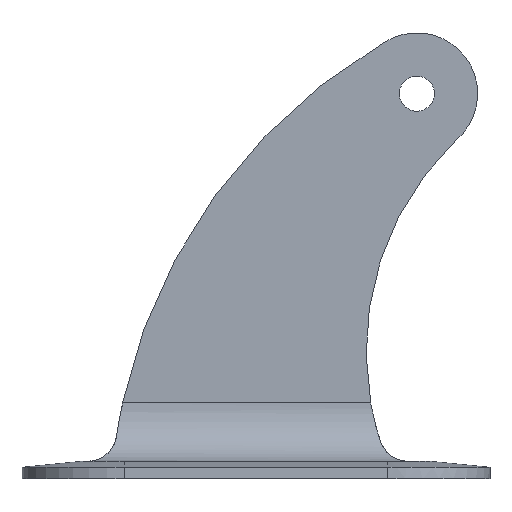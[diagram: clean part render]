
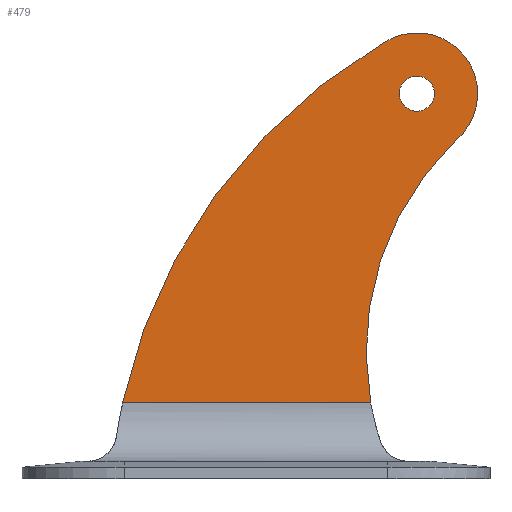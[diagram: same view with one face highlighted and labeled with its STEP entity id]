
A CAD part, left-side view. The second image highlights one B-rep face of the part: STEP entity #479.
In plain terms, the highlighted planar face has unit normal (-1, 0, 0).
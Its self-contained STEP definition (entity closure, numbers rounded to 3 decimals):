
#25=FACE_BOUND('',#110,.T.);
#37=PLANE('',#534);
#39=CIRCLE('',#500,10.);
#51=CIRCLE('',#533,18.867);
#52=CIRCLE('',#535,2.079);
#53=CIRCLE('',#536,0.6);
#79=FACE_OUTER_BOUND('',#109,.T.);
#109=EDGE_LOOP('',(#429,#430,#431,#432));
#110=EDGE_LOOP('',(#433));
#125=LINE('',#801,#160);
#160=VECTOR('',#584,10.);
#205=VERTEX_POINT('',#704);
#206=VERTEX_POINT('',#706);
#222=VERTEX_POINT('',#794);
#239=VERTEX_POINT('',#944);
#240=VERTEX_POINT('',#949);
#248=EDGE_CURVE('',#206,#205,#39,.F.);
#270=EDGE_CURVE('',#206,#222,#125,.T.);
#303=EDGE_CURVE('',#239,#222,#51,.F.);
#305=EDGE_CURVE('',#205,#239,#52,.F.);
#306=EDGE_CURVE('',#240,#240,#53,.F.);
#429=ORIENTED_EDGE('',*,*,#270,.F.);
#430=ORIENTED_EDGE('',*,*,#248,.T.);
#431=ORIENTED_EDGE('',*,*,#305,.T.);
#432=ORIENTED_EDGE('',*,*,#303,.T.);
#433=ORIENTED_EDGE('',*,*,#306,.T.);
#479=ADVANCED_FACE('',(#79,#25),#37,.T.);
#500=AXIS2_PLACEMENT_3D('',#707,#553,#554);
#533=AXIS2_PLACEMENT_3D('',#945,#649,#650);
#534=AXIS2_PLACEMENT_3D('',#947,#652,#653);
#535=AXIS2_PLACEMENT_3D('',#948,#654,#655);
#536=AXIS2_PLACEMENT_3D('',#950,#656,#657);
#553=DIRECTION('center_axis',(-1.,0.,0.));
#554=DIRECTION('ref_axis',(0.,0.994,0.111));
#584=DIRECTION('',(0.,1.,0.));
#649=DIRECTION('center_axis',(1.,0.,0.));
#650=DIRECTION('ref_axis',(0.,0.92,0.392));
#652=DIRECTION('center_axis',(-1.,0.,0.));
#653=DIRECTION('ref_axis',(0.,-1.,0.));
#654=DIRECTION('center_axis',(1.,0.,0.));
#655=DIRECTION('ref_axis',(0.,1.,0.));
#656=DIRECTION('center_axis',(-1.,0.,0.));
#657=DIRECTION('ref_axis',(0.,1.,0.));
#704=CARTESIAN_POINT('',(-0.8,-5.832,11.378));
#706=CARTESIAN_POINT('',(-0.8,-2.924,2.4));
#707=CARTESIAN_POINT('Origin',(-0.8,-12.765,4.172));
#794=CARTESIAN_POINT('',(-0.8,5.559,2.4));
#801=CARTESIAN_POINT('',(-0.8,1.75,2.4));
#944=CARTESIAN_POINT('',(-0.8,-3.354,14.709));
#945=CARTESIAN_POINT('Origin',(-0.8,-12.885,-1.573));
#947=CARTESIAN_POINT('Origin',(-0.8,4.5,5.));
#948=CARTESIAN_POINT('Origin',(-0.8,-4.5,12.974));
#949=CARTESIAN_POINT('',(-0.8,-5.1,12.974));
#950=CARTESIAN_POINT('Origin',(-0.8,-4.5,12.974));
